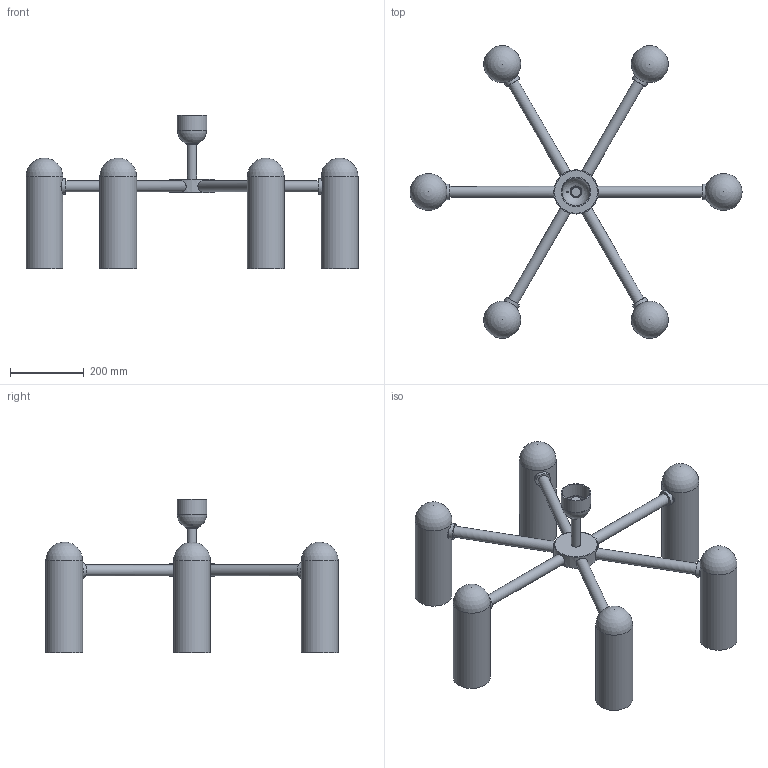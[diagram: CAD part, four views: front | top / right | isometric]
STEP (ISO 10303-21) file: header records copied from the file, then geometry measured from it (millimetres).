
FILE_DESCRIPTION(/* description */ (''),/* implementation_level */ '2;1');
FILE_NAME(/* name */ 'T:\B154 Odyssey Round Chandelier SM\Pliki bryłowe handlowe\B154 Odyssey Round SM 3D files\B154 Odyssey Round SM.stp',/* time_stamp */ '2022-01-24T17:12:54+01:00',/* author */ ('Mariusz Awariusz'),/* organization */ (''),/* preprocessor_version */ 'ST-DEVELOPER v18.1',/* originating_system */ 'Autodesk Inventor 2022',/* authorisation */ '');
FILE_SCHEMA (('AUTOMOTIVE_DESIGN { 1 0 10303 214 3 1 1 }'));
Length unit declared in the file: millimetre
Products named in the file (1): Odyssey Round Chandelier SM CE v7_na potrzeby plików 3D_2_jako cz
ęść
Bounding box: 900.6 x 793.34 x 416 mm (x, y, z)
Volume: 15165282.8 mm3; surface area: 861093.9 mm2
Topology: 2 solids, 14 shells, 148 faces, 317 edges, 213 vertices
Faces by surface type: cylinder 63, plane 44, bspline 31, sphere 9, cone 1
Full cylindrical faces by diameter (mm): 4 x1, 25 x2, 30 x7, 31.5 x1, 32 x1, 42 x6, 76 x1, 80 x1, 100 x6, 120 x1
Entity records: 11730 total; most frequent: CARTESIAN_POINT 8719, ORIENTED_EDGE 622, DIRECTION 540, EDGE_CURVE 311, AXIS2_PLACEMENT_3D 229, VERTEX_POINT 213, EDGE_LOOP 174, FACE_OUTER_BOUND 148
